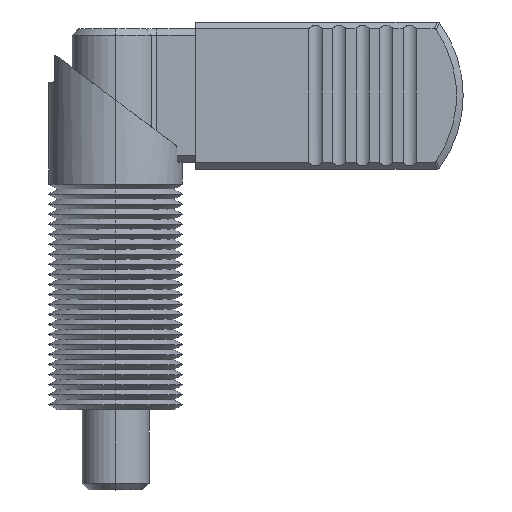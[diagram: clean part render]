
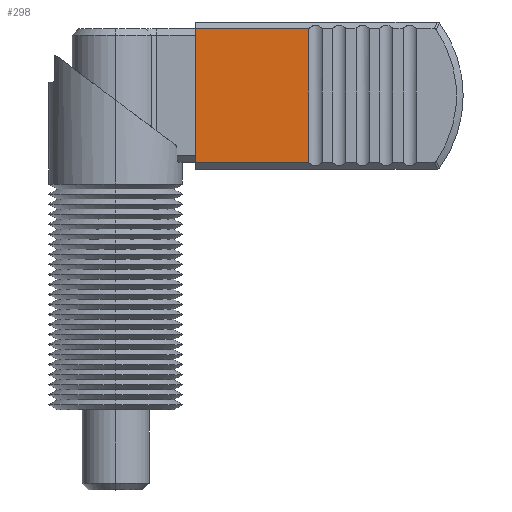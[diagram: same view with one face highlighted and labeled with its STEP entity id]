
A CAD part, top view. The second image highlights one B-rep face of the part: STEP entity #298.
In plain terms, the highlighted planar face has unit normal (0, 0, 1) as drawn and (-1, 0, 0) by its records, which use the part's own axes.
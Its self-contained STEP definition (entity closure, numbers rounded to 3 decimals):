
#245 = ORIENTED_EDGE ( 'NONE', *, *, #268, .T. ) ;
#268 = EDGE_CURVE ( 'NONE', #4386, #284, #5426, .T. ) ;
#278 = ORIENTED_EDGE ( 'NONE', *, *, #4387, .F. ) ;
#279 = EDGE_CURVE ( 'NONE', #280, #4385, #5422, .T. ) ;
#280 = VERTEX_POINT ( 'NONE', #5418 ) ;
#282 = ORIENTED_EDGE ( 'NONE', *, *, #279, .T. ) ;
#284 = VERTEX_POINT ( 'NONE', #5414 ) ;
#293 = EDGE_LOOP ( 'NONE', ( #294, #282, #278, #245 ) ) ;
#294 = ORIENTED_EDGE ( 'NONE', *, *, #295, .T. ) ;
#295 = EDGE_CURVE ( 'NONE', #284, #280, #5464, .T. ) ;
#298 = ADVANCED_FACE ( 'NONE', ( #5456 ), #5454, .T. ) ;
#1691 = DIRECTION ( 'NONE',  ( 0., 1., 0. ) ) ;
#1692 = VECTOR ( 'NONE', #1691, 1000. ) ;
#1693 = CARTESIAN_POINT ( 'NONE',  ( -4.25, -11., 0. ) ) ;
#1694 = LINE ( 'NONE', #1693, #1692 ) ;
#1695 = CARTESIAN_POINT ( 'NONE',  ( -4.25, -9.999, 0. ) ) ;
#1699 = CARTESIAN_POINT ( 'NONE',  ( -4.25, 9.999, 0. ) ) ;
#4385 = VERTEX_POINT ( 'NONE', #1699 ) ;
#4386 = VERTEX_POINT ( 'NONE', #1695 ) ;
#4387 = EDGE_CURVE ( 'NONE', #4386, #4385, #1694, .T. ) ;
#5414 = CARTESIAN_POINT ( 'NONE',  ( -4.25, -9.999, 16.921 ) ) ;
#5418 = CARTESIAN_POINT ( 'NONE',  ( -4.25, 9.999, 16.921 ) ) ;
#5419 = DIRECTION ( 'NONE',  ( 0., 0., -1. ) ) ;
#5420 = VECTOR ( 'NONE', #5419, 1000. ) ;
#5421 = CARTESIAN_POINT ( 'NONE',  ( -4.25, 9.999, 0. ) ) ;
#5422 = LINE ( 'NONE', #5421, #5420 ) ;
#5423 = DIRECTION ( 'NONE',  ( 0., 0., 1. ) ) ;
#5424 = VECTOR ( 'NONE', #5423, 1000. ) ;
#5425 = CARTESIAN_POINT ( 'NONE',  ( -4.25, -9.999, 36.335 ) ) ;
#5426 = LINE ( 'NONE', #5425, #5424 ) ;
#5450 = DIRECTION ( 'NONE',  ( 0., 0., 1. ) ) ;
#5451 = DIRECTION ( 'NONE',  ( -1., 0., 0. ) ) ;
#5452 = CARTESIAN_POINT ( 'NONE',  ( -4.25, 0., 21.661 ) ) ;
#5453 = AXIS2_PLACEMENT_3D ( 'NONE', #5452, #5451, #5450 ) ;
#5454 = PLANE ( 'NONE',  #5453 ) ;
#5456 = FACE_OUTER_BOUND ( 'NONE', #293, .T. ) ;
#5461 = DIRECTION ( 'NONE',  ( 0., 1., 0. ) ) ;
#5462 = VECTOR ( 'NONE', #5461, 1000. ) ;
#5463 = CARTESIAN_POINT ( 'NONE',  ( -4.25, -11., 16.921 ) ) ;
#5464 = LINE ( 'NONE', #5463, #5462 ) ;
